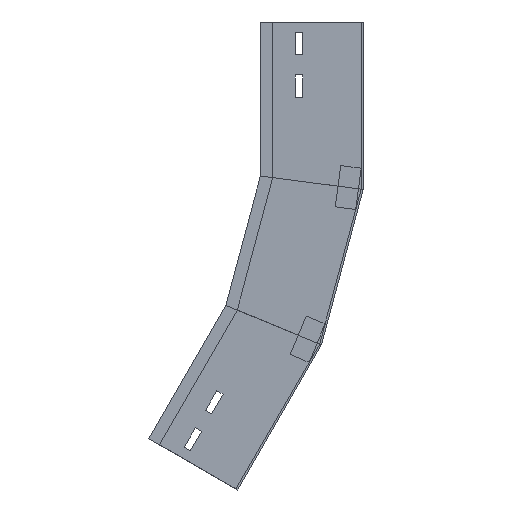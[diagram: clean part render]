
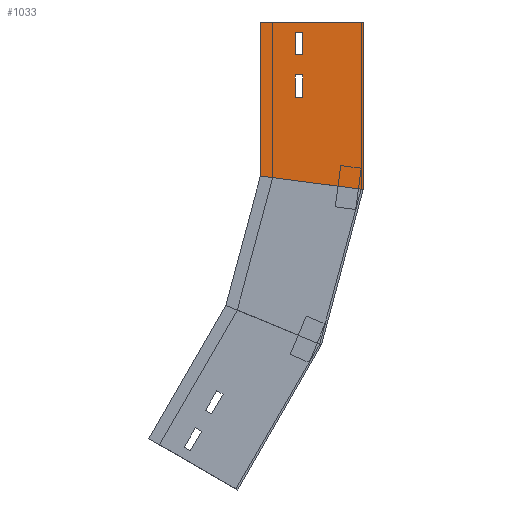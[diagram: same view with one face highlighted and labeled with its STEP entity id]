
A CAD part, left-side view. The second image highlights one B-rep face of the part: STEP entity #1033.
In plain terms, the highlighted planar face has unit normal (-1, 0, 0) as drawn and (1, 0, 0) by its records, which use the part's own axes.
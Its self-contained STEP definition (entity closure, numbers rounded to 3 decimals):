
#18 = FACE_OUTER_BOUND ( 'NONE', #1257, .T. ) ;
#23 = EDGE_CURVE ( 'NONE', #457, #603, #326, .T. ) ;
#49 = DIRECTION ( 'NONE',  ( 0., 0., 1. ) ) ;
#71 = VERTEX_POINT ( 'NONE', #1300 ) ;
#74 = LINE ( 'NONE', #304, #1469 ) ;
#79 = VECTOR ( 'NONE', #377, 1000. ) ;
#99 = VECTOR ( 'NONE', #413, 1000. ) ;
#110 = VERTEX_POINT ( 'NONE', #827 ) ;
#117 = DIRECTION ( 'NONE',  ( 0., -0.866, -0.5 ) ) ;
#166 = EDGE_CURVE ( 'NONE', #340, #110, #1451, .T. ) ;
#204 = VERTEX_POINT ( 'NONE', #818 ) ;
#217 = DIRECTION ( 'NONE',  ( 0., 0.5, -0.866 ) ) ;
#223 = DIRECTION ( 'NONE',  ( 0., 0.5, -0.866 ) ) ;
#252 = VERTEX_POINT ( 'NONE', #709 ) ;
#258 = ORIENTED_EDGE ( 'NONE', *, *, #367, .F. ) ;
#261 = DIRECTION ( 'NONE',  ( -1., 0., 0. ) ) ;
#262 = VECTOR ( 'NONE', #217, 1000. ) ;
#265 = VECTOR ( 'NONE', #117, 1000. ) ;
#266 = EDGE_CURVE ( 'NONE', #340, #1012, #856, .T. ) ;
#283 = CARTESIAN_POINT ( 'NONE',  ( 0., 40.531, -314.264 ) ) ;
#289 = DIRECTION ( 'NONE',  ( 0., 0.866, 0.5 ) ) ;
#304 = CARTESIAN_POINT ( 'NONE',  ( 0., 153.436, -377.821 ) ) ;
#309 = DIRECTION ( 'NONE',  ( 0., -0.924, -0.383 ) ) ;
#326 = LINE ( 'NONE', #561, #704 ) ;
#340 = VERTEX_POINT ( 'NONE', #1413 ) ;
#365 = EDGE_CURVE ( 'NONE', #204, #71, #742, .T. ) ;
#367 = EDGE_CURVE ( 'NONE', #71, #772, #74, .T. ) ;
#375 = FACE_BOUND ( 'NONE', #881, .T. ) ;
#377 = DIRECTION ( 'NONE',  ( 0., 0.5, -0.866 ) ) ;
#381 = CARTESIAN_POINT ( 'NONE',  ( 0., 208.634, -405.426 ) ) ;
#388 = CARTESIAN_POINT ( 'NONE',  ( 0., 136.374, -362.269 ) ) ;
#392 = FACE_BOUND ( 'NONE', #877, .T. ) ;
#397 = VECTOR ( 'NONE', #289, 1000. ) ;
#413 = DIRECTION ( 'NONE',  ( 0., 0.5, -0.866 ) ) ;
#419 = CARTESIAN_POINT ( 'NONE',  ( 0., 122.031, -455.426 ) ) ;
#434 = ORIENTED_EDGE ( 'NONE', *, *, #1301, .F. ) ;
#446 = DIRECTION ( 'NONE',  ( 0., 0.866, 0.5 ) ) ;
#456 = EDGE_CURVE ( 'NONE', #1029, #252, #1453, .T. ) ;
#457 = VERTEX_POINT ( 'NONE', #1480 ) ;
#458 = DIRECTION ( 'NONE',  ( 0., -0.5, 0.866 ) ) ;
#478 = LINE ( 'NONE', #1396, #885 ) ;
#512 = ORIENTED_EDGE ( 'NONE', *, *, #23, .F. ) ;
#519 = DIRECTION ( 'NONE',  ( 0., -0.5, 0.866 ) ) ;
#534 = VERTEX_POINT ( 'NONE', #388 ) ;
#557 = CARTESIAN_POINT ( 'NONE',  ( 0., 142.436, -358.769 ) ) ;
#561 = CARTESIAN_POINT ( 'NONE',  ( 0., 174.271, -413.909 ) ) ;
#565 = DIRECTION ( 'NONE',  ( 0., -0.866, -0.5 ) ) ;
#582 = VECTOR ( 'NONE', #309, 1000. ) ;
#587 = VECTOR ( 'NONE', #223, 1000. ) ;
#596 = ORIENTED_EDGE ( 'NONE', *, *, #266, .F. ) ;
#603 = VERTEX_POINT ( 'NONE', #1094 ) ;
#647 = AXIS2_PLACEMENT_3D ( 'NONE', #283, #261, #49 ) ;
#673 = EDGE_CURVE ( 'NONE', #110, #800, #824, .T. ) ;
#684 = ORIENTED_EDGE ( 'NONE', *, *, #740, .T. ) ;
#685 = CARTESIAN_POINT ( 'NONE',  ( 0., 147.374, -381.321 ) ) ;
#704 = VECTOR ( 'NONE', #446, 1000. ) ;
#709 = CARTESIAN_POINT ( 'NONE',  ( 0., 157.209, -398.356 ) ) ;
#714 = EDGE_CURVE ( 'NONE', #772, #534, #1428, .T. ) ;
#740 = EDGE_CURVE ( 'NONE', #800, #1012, #980, .T. ) ;
#742 = LINE ( 'NONE', #1189, #397 ) ;
#772 = VERTEX_POINT ( 'NONE', #557 ) ;
#777 = CARTESIAN_POINT ( 'NONE',  ( 0., 59.416, -306.442 ) ) ;
#778 = CARTESIAN_POINT ( 'NONE',  ( 0., 163.271, -394.856 ) ) ;
#800 = VERTEX_POINT ( 'NONE', #1127 ) ;
#818 = CARTESIAN_POINT ( 'NONE',  ( 0., 147.374, -381.321 ) ) ;
#824 = LINE ( 'NONE', #1071, #587 ) ;
#827 = CARTESIAN_POINT ( 'NONE',  ( 0., 40.531, -314.264 ) ) ;
#847 = PLANE ( 'NONE',  #647 ) ;
#851 = ORIENTED_EDGE ( 'NONE', *, *, #166, .T. ) ;
#855 = CARTESIAN_POINT ( 'NONE',  ( 0., 163.271, -394.856 ) ) ;
#856 = LINE ( 'NONE', #1055, #79 ) ;
#877 = EDGE_LOOP ( 'NONE', ( #258, #977, #1259, #1331 ) ) ;
#881 = EDGE_LOOP ( 'NONE', ( #434, #512, #1298, #1256 ) ) ;
#882 = EDGE_CURVE ( 'NONE', #534, #204, #1241, .T. ) ;
#885 = VECTOR ( 'NONE', #458, 1000. ) ;
#904 = LINE ( 'NONE', #1449, #99 ) ;
#963 = CARTESIAN_POINT ( 'NONE',  ( 0., 142.436, -358.769 ) ) ;
#977 = ORIENTED_EDGE ( 'NONE', *, *, #365, .F. ) ;
#980 = LINE ( 'NONE', #419, #1486 ) ;
#1012 = VERTEX_POINT ( 'NONE', #381 ) ;
#1029 = VERTEX_POINT ( 'NONE', #855 ) ;
#1033 = ADVANCED_FACE ( 'NONE', ( #375, #392, #18 ), #847, .F. ) ;
#1055 = CARTESIAN_POINT ( 'NONE',  ( 0., 127.134, -264.264 ) ) ;
#1071 = CARTESIAN_POINT ( 'NONE',  ( 0., 40.531, -314.264 ) ) ;
#1094 = CARTESIAN_POINT ( 'NONE',  ( 0., 174.271, -413.909 ) ) ;
#1095 = VECTOR ( 'NONE', #565, 1000. ) ;
#1127 = CARTESIAN_POINT ( 'NONE',  ( 0., 122.031, -455.426 ) ) ;
#1189 = CARTESIAN_POINT ( 'NONE',  ( 0., 153.436, -377.821 ) ) ;
#1201 = EDGE_CURVE ( 'NONE', #252, #457, #904, .T. ) ;
#1225 = ORIENTED_EDGE ( 'NONE', *, *, #673, .T. ) ;
#1241 = LINE ( 'NONE', #685, #262 ) ;
#1256 = ORIENTED_EDGE ( 'NONE', *, *, #456, .F. ) ;
#1257 = EDGE_LOOP ( 'NONE', ( #851, #1225, #684, #596 ) ) ;
#1259 = ORIENTED_EDGE ( 'NONE', *, *, #882, .F. ) ;
#1298 = ORIENTED_EDGE ( 'NONE', *, *, #1201, .F. ) ;
#1300 = CARTESIAN_POINT ( 'NONE',  ( 0., 153.436, -377.821 ) ) ;
#1301 = EDGE_CURVE ( 'NONE', #603, #1029, #478, .T. ) ;
#1331 = ORIENTED_EDGE ( 'NONE', *, *, #714, .F. ) ;
#1396 = CARTESIAN_POINT ( 'NONE',  ( 0., 174.271, -413.909 ) ) ;
#1413 = CARTESIAN_POINT ( 'NONE',  ( 0., 133.716, -275.665 ) ) ;
#1428 = LINE ( 'NONE', #963, #265 ) ;
#1443 = DIRECTION ( 'NONE',  ( 0., 0.866, 0.5 ) ) ;
#1449 = CARTESIAN_POINT ( 'NONE',  ( 0., 168.209, -417.409 ) ) ;
#1451 = LINE ( 'NONE', #777, #582 ) ;
#1453 = LINE ( 'NONE', #778, #1095 ) ;
#1469 = VECTOR ( 'NONE', #519, 1000. ) ;
#1480 = CARTESIAN_POINT ( 'NONE',  ( 0., 168.209, -417.409 ) ) ;
#1486 = VECTOR ( 'NONE', #1443, 1000. ) ;
